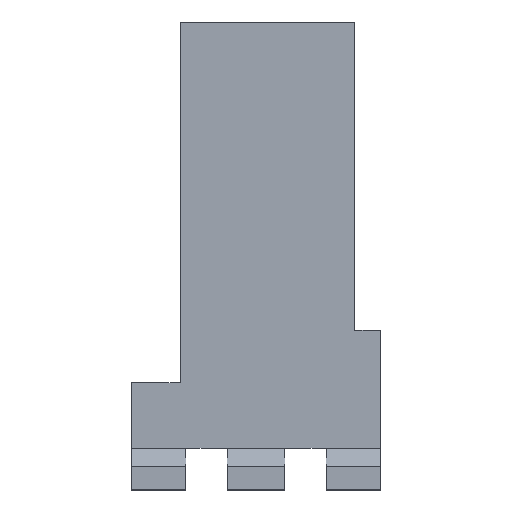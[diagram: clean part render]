
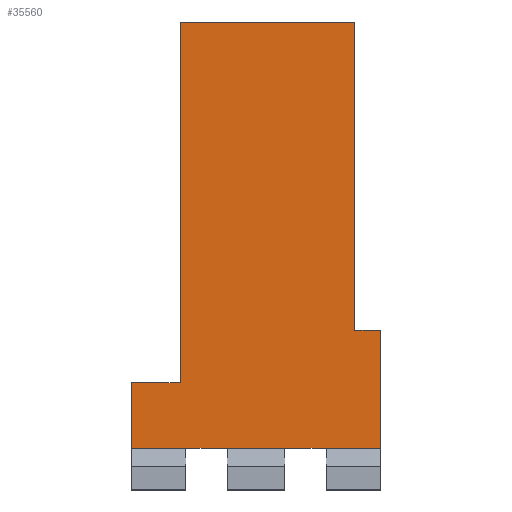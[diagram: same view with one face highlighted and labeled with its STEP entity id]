
A CAD part, top view. The second image highlights one B-rep face of the part: STEP entity #35560.
In plain terms, the highlighted planar face has unit normal (0, 0, 1).
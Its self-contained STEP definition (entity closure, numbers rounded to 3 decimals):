
#2267=FACE_OUTER_BOUND('',#3888,.T.);
#3888=EDGE_LOOP('',(#29346,#29347,#29348,#29349,#29350,#29351,#29352,#29353,
#29354,#29355,#29356,#29357));
#9277=LINE('',#54921,#14188);
#9279=LINE('',#54925,#14190);
#9284=LINE('',#54934,#14195);
#9311=LINE('',#55100,#14222);
#9327=LINE('',#55135,#14238);
#9330=LINE('',#55141,#14241);
#9333=LINE('',#55147,#14244);
#9334=LINE('',#55149,#14245);
#9335=LINE('',#55151,#14246);
#9336=LINE('',#55153,#14247);
#9337=LINE('',#55155,#14248);
#9338=LINE('',#55156,#14249);
#14188=VECTOR('',#45082,10.);
#14190=VECTOR('',#45086,10.);
#14195=VECTOR('',#45093,10.);
#14222=VECTOR('',#45154,10.);
#14238=VECTOR('',#45186,10.);
#14241=VECTOR('',#45193,10.);
#14244=VECTOR('',#45198,10.);
#14245=VECTOR('',#45199,10.);
#14246=VECTOR('',#45200,10.);
#14247=VECTOR('',#45201,10.);
#14248=VECTOR('',#45202,10.);
#14249=VECTOR('',#45203,10.);
#17399=VERTEX_POINT('',#54895);
#17406=VERTEX_POINT('',#54909);
#17411=VERTEX_POINT('',#54924);
#17414=VERTEX_POINT('',#54932);
#17440=VERTEX_POINT('',#55099);
#17451=VERTEX_POINT('',#55134);
#17452=VERTEX_POINT('',#55140);
#17454=VERTEX_POINT('',#55146);
#17455=VERTEX_POINT('',#55148);
#17456=VERTEX_POINT('',#55150);
#17457=VERTEX_POINT('',#55152);
#17458=VERTEX_POINT('',#55154);
#22276=EDGE_CURVE('',#17399,#17406,#9277,.T.);
#22278=EDGE_CURVE('',#17406,#17411,#9279,.T.);
#22283=EDGE_CURVE('',#17414,#17399,#9284,.T.);
#22322=EDGE_CURVE('',#17411,#17440,#9311,.T.);
#22339=EDGE_CURVE('',#17440,#17451,#9327,.T.);
#22342=EDGE_CURVE('',#17451,#17452,#9330,.T.);
#22345=EDGE_CURVE('',#17454,#17452,#9333,.T.);
#22346=EDGE_CURVE('',#17414,#17455,#9334,.T.);
#22347=EDGE_CURVE('',#17455,#17456,#9335,.T.);
#22348=EDGE_CURVE('',#17456,#17457,#9336,.T.);
#22349=EDGE_CURVE('',#17457,#17458,#9337,.T.);
#22350=EDGE_CURVE('',#17458,#17454,#9338,.T.);
#29346=ORIENTED_EDGE('',*,*,#22345,.T.);
#29347=ORIENTED_EDGE('',*,*,#22342,.F.);
#29348=ORIENTED_EDGE('',*,*,#22339,.F.);
#29349=ORIENTED_EDGE('',*,*,#22322,.F.);
#29350=ORIENTED_EDGE('',*,*,#22278,.F.);
#29351=ORIENTED_EDGE('',*,*,#22276,.F.);
#29352=ORIENTED_EDGE('',*,*,#22283,.F.);
#29353=ORIENTED_EDGE('',*,*,#22346,.T.);
#29354=ORIENTED_EDGE('',*,*,#22347,.T.);
#29355=ORIENTED_EDGE('',*,*,#22348,.T.);
#29356=ORIENTED_EDGE('',*,*,#22349,.T.);
#29357=ORIENTED_EDGE('',*,*,#22350,.T.);
#33942=PLANE('',#37213);
#35560=ADVANCED_FACE('',(#2267),#33942,.T.);
#37213=AXIS2_PLACEMENT_3D('',#55145,#45196,#45197);
#45082=DIRECTION('',(-1.,0.,0.));
#45086=DIRECTION('',(-1.,0.,0.));
#45093=DIRECTION('',(-1.,0.,0.));
#45154=DIRECTION('',(-1.,0.,0.));
#45186=DIRECTION('',(-1.,0.,0.));
#45193=DIRECTION('',(0.,1.,0.));
#45196=DIRECTION('center_axis',(0.,0.,
1.));
#45197=DIRECTION('ref_axis',(1.,0.,0.));
#45198=DIRECTION('',(-1.,0.,0.));
#45199=DIRECTION('',(0.,1.,0.));
#45200=DIRECTION('',(-1.,0.,0.));
#45201=DIRECTION('',(0.,1.,0.));
#45202=DIRECTION('',(-1.,0.,0.));
#45203=DIRECTION('',(0.,-1.,0.));
#54895=CARTESIAN_POINT('',(28.13,0.,2.8));
#54909=CARTESIAN_POINT('',(22.13,0.,2.8));
#54921=CARTESIAN_POINT('',(0.,0.,2.8));
#54924=CARTESIAN_POINT('',(13.83,0.,2.8));
#54925=CARTESIAN_POINT('',(0.,0.,2.8));
#54932=CARTESIAN_POINT('',(35.96,0.,2.8));
#54934=CARTESIAN_POINT('',(0.,0.,2.8));
#55099=CARTESIAN_POINT('',(7.83,0.,2.8));
#55100=CARTESIAN_POINT('',(0.,0.,2.8));
#55134=CARTESIAN_POINT('',(0.,0.,2.8));
#55135=CARTESIAN_POINT('',(0.,0.,2.8));
#55140=CARTESIAN_POINT('',(0.,9.48,2.8));
#55141=CARTESIAN_POINT('',(0.,78.8,2.8));
#55145=CARTESIAN_POINT('Origin',(40.117,39.4,2.8));
#55146=CARTESIAN_POINT('',(7.,9.48,2.8));
#55147=CARTESIAN_POINT('',(21.498,9.48,2.8));
#55148=CARTESIAN_POINT('',(35.96,17.08,2.8));
#55149=CARTESIAN_POINT('',(35.96,19.7,2.8));
#55150=CARTESIAN_POINT('',(32.28,17.08,2.8));
#55151=CARTESIAN_POINT('',(38.038,17.08,2.8));
#55152=CARTESIAN_POINT('',(32.28,61.68,2.8));
#55153=CARTESIAN_POINT('',(32.28,28.24,2.8));
#55154=CARTESIAN_POINT('',(7.,61.68,2.8));
#55155=CARTESIAN_POINT('',(27.598,61.68,2.8));
#55156=CARTESIAN_POINT('',(7.,50.54,2.8));
